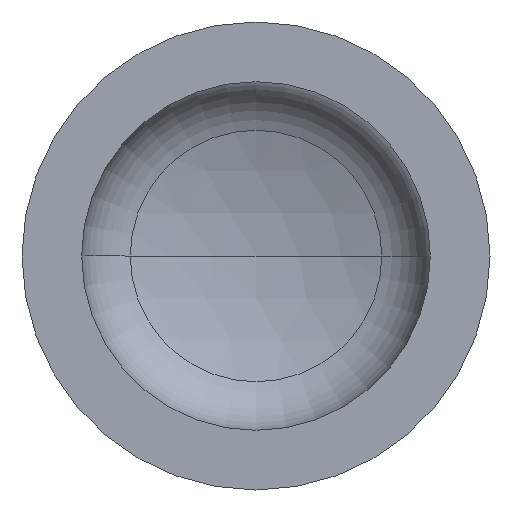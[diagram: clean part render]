
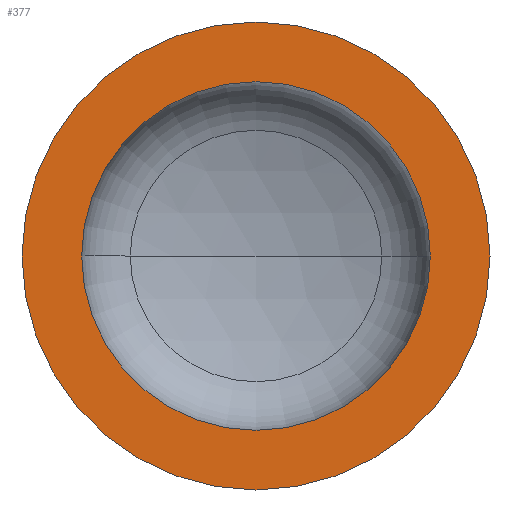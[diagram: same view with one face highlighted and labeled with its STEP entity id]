
A CAD part, front view. The second image highlights one B-rep face of the part: STEP entity #377.
In plain terms, the highlighted planar face has unit normal (0, -1, 0).
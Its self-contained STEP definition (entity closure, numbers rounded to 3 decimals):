
#1 = AXIS2_PLACEMENT_3D ( 'NONE', #161, #157, #331 ) ;
#3 = AXIS2_PLACEMENT_3D ( 'NONE', #361, #262, #29 ) ;
#6 = VERTEX_POINT ( 'NONE', #372 ) ;
#7 = EDGE_LOOP ( 'NONE', ( #54, #112 ) ) ;
#13 = ORIENTED_EDGE ( 'NONE', *, *, #116, .F. ) ;
#21 = VERTEX_POINT ( 'NONE', #271 ) ;
#29 = DIRECTION ( 'NONE',  ( 1., 0., 0. ) ) ;
#44 = CIRCLE ( 'NONE', #3, 298. ) ;
#52 = EDGE_LOOP ( 'NONE', ( #13, #125 ) ) ;
#54 = ORIENTED_EDGE ( 'NONE', *, *, #403, .T. ) ;
#83 = AXIS2_PLACEMENT_3D ( 'NONE', #306, #304, #283 ) ;
#86 = AXIS2_PLACEMENT_3D ( 'NONE', #376, #295, #294 ) ;
#102 = VERTEX_POINT ( 'NONE', #228 ) ;
#112 = ORIENTED_EDGE ( 'NONE', *, *, #114, .T. ) ;
#114 = EDGE_CURVE ( 'NONE', #126, #102, #234, .T. ) ;
#116 = EDGE_CURVE ( 'NONE', #6, #21, #173, .T. ) ;
#125 = ORIENTED_EDGE ( 'NONE', *, *, #384, .F. ) ;
#126 = VERTEX_POINT ( 'NONE', #282 ) ;
#157 = DIRECTION ( 'NONE',  ( 0., 1., 0. ) ) ;
#158 = CARTESIAN_POINT ( 'NONE',  ( 0., 0., 0. ) ) ;
#160 = DIRECTION ( 'NONE',  ( 0., -1., 0. ) ) ;
#161 = CARTESIAN_POINT ( 'NONE',  ( -400., 0., 0. ) ) ;
#169 = CIRCLE ( 'NONE', #314, 400. ) ;
#173 = CIRCLE ( 'NONE', #83, 298. ) ;
#228 = CARTESIAN_POINT ( 'NONE',  ( 400., 0., 0. ) ) ;
#234 = CIRCLE ( 'NONE', #86, 400. ) ;
#262 = DIRECTION ( 'NONE',  ( 0., -1., 0. ) ) ;
#271 = CARTESIAN_POINT ( 'NONE',  ( -298., 0., 0. ) ) ;
#282 = CARTESIAN_POINT ( 'NONE',  ( -400., 0., 0. ) ) ;
#283 = DIRECTION ( 'NONE',  ( 1., 0., 0. ) ) ;
#294 = DIRECTION ( 'NONE',  ( 1., 0., 0. ) ) ;
#295 = DIRECTION ( 'NONE',  ( 0., -1., 0. ) ) ;
#298 = PLANE ( 'NONE',  #1 ) ;
#303 = DIRECTION ( 'NONE',  ( 1., 0., 0. ) ) ;
#304 = DIRECTION ( 'NONE',  ( 0., -1., 0. ) ) ;
#306 = CARTESIAN_POINT ( 'NONE',  ( 0., 0., 0. ) ) ;
#314 = AXIS2_PLACEMENT_3D ( 'NONE', #158, #160, #303 ) ;
#331 = DIRECTION ( 'NONE',  ( -1., 0., 0. ) ) ;
#361 = CARTESIAN_POINT ( 'NONE',  ( 0., 0., 0. ) ) ;
#368 = FACE_OUTER_BOUND ( 'NONE', #7, .T. ) ;
#372 = CARTESIAN_POINT ( 'NONE',  ( 298., 0., 0. ) ) ;
#374 = FACE_BOUND ( 'NONE', #52, .T. ) ;
#376 = CARTESIAN_POINT ( 'NONE',  ( 0., 0., 0. ) ) ;
#377 = ADVANCED_FACE ( 'NONE', ( #374, #368 ), #298, .F. ) ;
#384 = EDGE_CURVE ( 'NONE', #21, #6, #44, .T. ) ;
#403 = EDGE_CURVE ( 'NONE', #102, #126, #169, .T. ) ;
